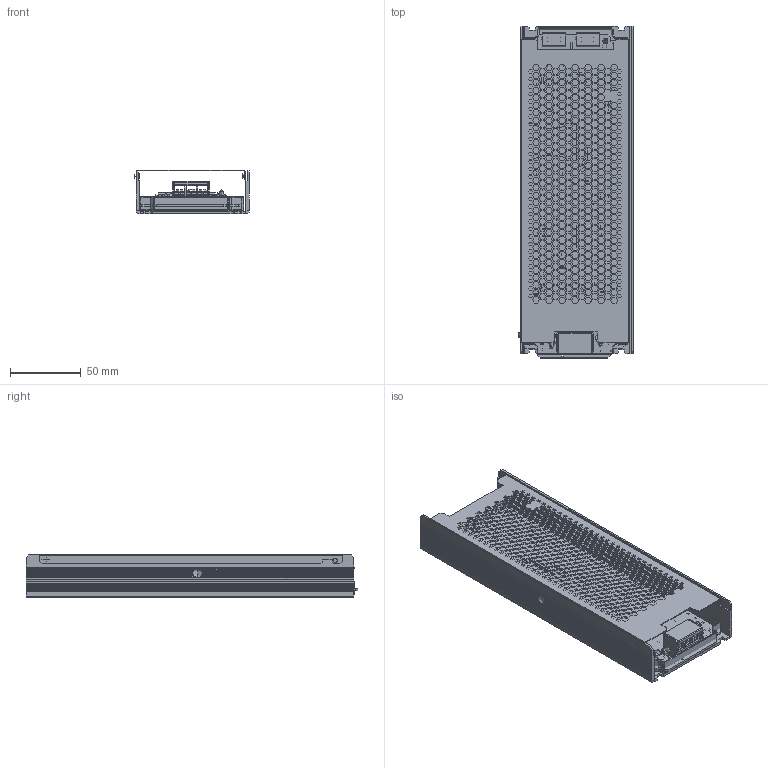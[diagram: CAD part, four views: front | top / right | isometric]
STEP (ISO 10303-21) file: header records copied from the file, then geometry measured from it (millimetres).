
FILE_DESCRIPTION(/* description */ (''),/* implementation_level */ '2;1');
FILE_NAME(/* name */ 'NHP500W',/* time_stamp */ '2025-08-04T10:29:21+08:00',/* author */ (''),/* organization */ (''),/* preprocessor_version */ 'ST-DEVELOPER v16.5',/* originating_system */ '',/* authorisation */ '');
FILE_SCHEMA (('AUTOMOTIVE_DESIGN'));
Products named in the file (2): Document; wireframe_rep_0
Assembly tree (1 placements, depth 2):
  Document
    wireframe_rep_0
Bounding box: 81.24 x 234.92 x 31 mm (x, y, z)
Volume: 107363.1 mm3; surface area: 185571.9 mm2
Topology: 33 solids, 33 shells, 5333 faces, 15586 edges, 10218 vertices
Faces by surface type: plane 4047, bspline 1286
Entity records: 191874 total; most frequent: CARTESIAN_POINT 90421, ORIENTED_EDGE 30880, EDGE_CURVE 15440, B_SPLINE_CURVE_WITH_KNOTS 13346, VERTEX_POINT 10207, EDGE_LOOP 6821, ADVANCED_FACE 5333, FACE_OUTER_BOUND 5333
